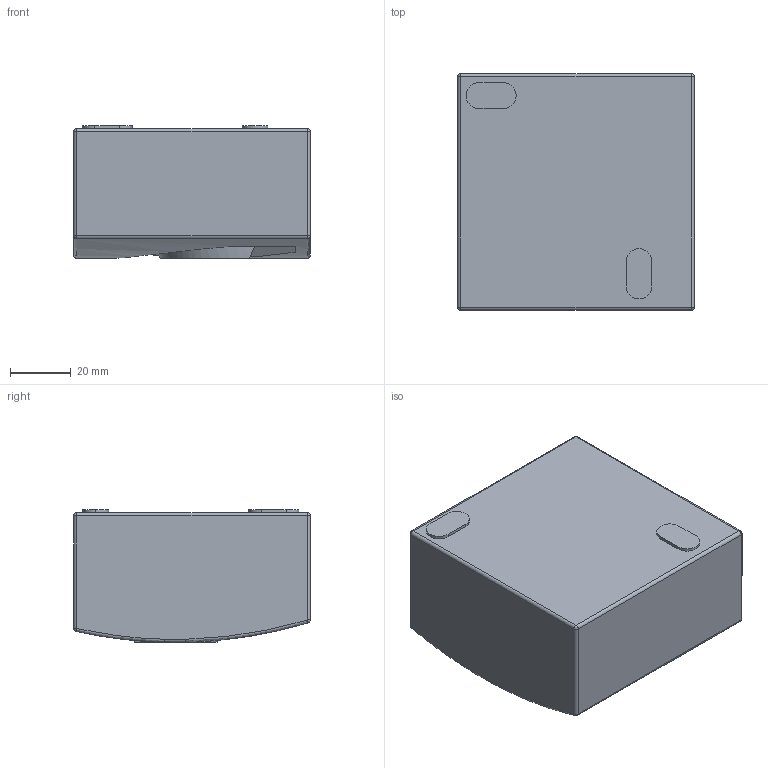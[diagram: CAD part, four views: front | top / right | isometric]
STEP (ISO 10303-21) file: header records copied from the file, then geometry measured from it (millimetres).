
FILE_DESCRIPTION (( 'STEP AP214' ), '1' );
FILE_NAME ('TA3.STEP', '2022-12-16T09:35:03', ( '' ), ( '' ), 'SwSTEP 2.0', 'SolidWorks 2022', '' );
FILE_SCHEMA (( 'AUTOMOTIVE_DESIGN' ));
Length unit declared in the file: millimetre
Products named in the file (1): TA3
Bounding box: 78 x 78 x 43.7 mm (x, y, z)
Volume: 244985.1 mm3; surface area: 25038 mm2
Topology: 1 solids, 1 shells, 52 faces, 121 edges, 66 vertices
Faces by surface type: plane 19, cylinder 17, bspline 8, sphere 8
Entity records: 1645 total; most frequent: CARTESIAN_POINT 526, ORIENTED_EDGE 228, DIRECTION 215, EDGE_CURVE 114, AXIS2_PLACEMENT_3D 79, VERTEX_POINT 66, VECTOR 57, LINE 57
